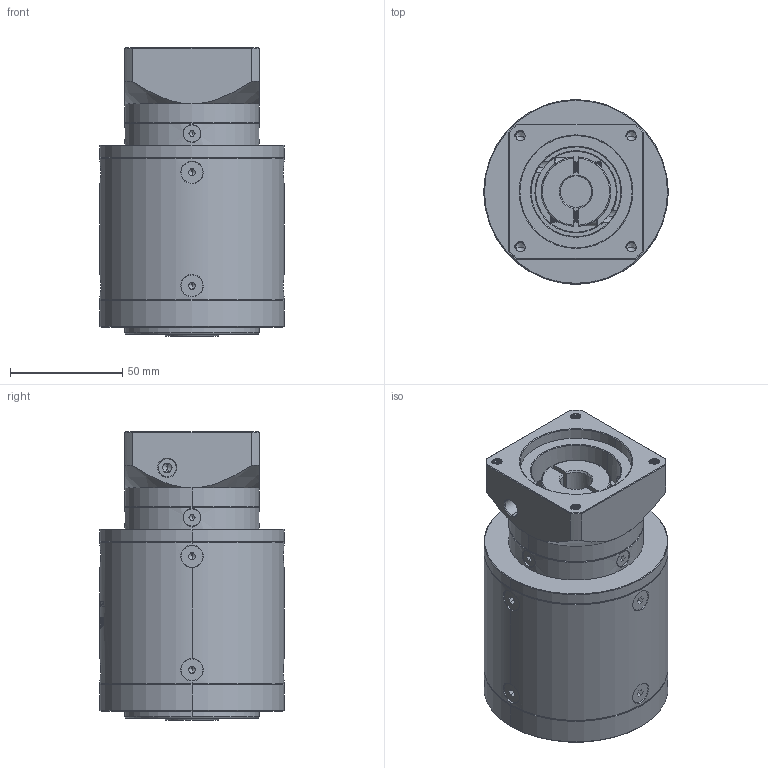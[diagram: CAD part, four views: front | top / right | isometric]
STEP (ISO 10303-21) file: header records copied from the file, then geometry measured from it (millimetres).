
FILE_DESCRIPTION (( 'STEP AP214' ), '1' );
FILE_NAME ('ZE80-K15-L3-14-50-70-M5.step', '2022-05-08T06:08:24', ( '' ), ( 'Microsoft' ), 'SwSTEP 2.0', 'SolidWorks 2016', '' );
FILE_SCHEMA (( 'AUTOMOTIVE_DESIGN' ));
Length unit declared in the file: millimetre
Products named in the file (1): ZE80-K15-L3-14-50-70-M5
Bounding box: 82 x 82 x 128.5 mm (x, y, z)
Volume: 528575.7 mm3; surface area: 68047.9 mm2
Topology: 18 solids, 18 shells, 2077 faces, 5476 edges, 3489 vertices
Faces by surface type: plane 936, cylinder 490, bspline 330, cone 307, torus 14
Entity records: 115470 total; most frequent: CARTESIAN_POINT 45303, ORIENTED_EDGE 10864, DIRECTION 8485, EDGE_CURVE 5432, VERTEX_POINT 3489, VECTOR 2917, LINE 2917, AXIS2_PLACEMENT_3D 2784
